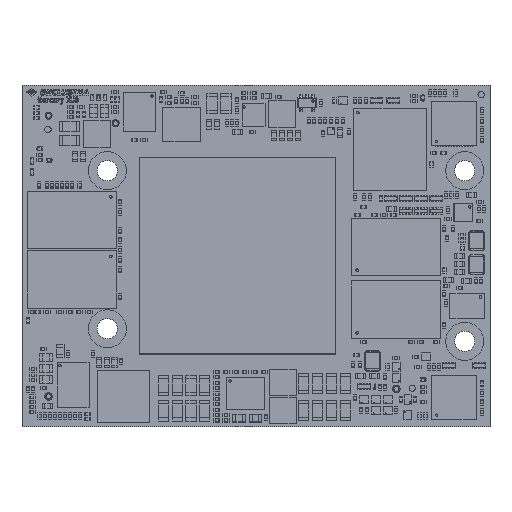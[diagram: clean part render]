
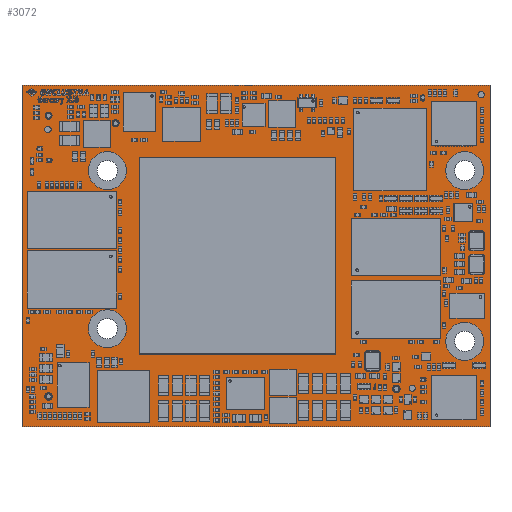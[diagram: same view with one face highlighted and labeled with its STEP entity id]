
A CAD part, top view. The second image highlights one B-rep face of the part: STEP entity #3072.
In plain terms, the highlighted planar face has unit normal (0, 0, 1).
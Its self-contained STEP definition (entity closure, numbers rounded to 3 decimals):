
#2583 = VERTEX_POINT('',#2584);
#2584 = CARTESIAN_POINT('',(0.,0.,0.));
#2590 = EDGE_CURVE('',#2583,#2591,#2593,.T.);
#2591 = VERTEX_POINT('',#2592);
#2592 = CARTESIAN_POINT('',(74.,0.,0.));
#2593 = LINE('',#2594,#2595);
#2594 = CARTESIAN_POINT('',(0.,0.,0.));
#2595 = VECTOR('',#2596,1.);
#2596 = DIRECTION('',(1.,0.,0.));
#2621 = EDGE_CURVE('',#2591,#2622,#2624,.T.);
#2622 = VERTEX_POINT('',#2623);
#2623 = CARTESIAN_POINT('',(74.,54.,0.));
#2624 = LINE('',#2625,#2626);
#2625 = CARTESIAN_POINT('',(74.,0.,0.));
#2626 = VECTOR('',#2627,1.);
#2627 = DIRECTION('',(0.,1.,0.));
#2652 = EDGE_CURVE('',#2622,#2653,#2655,.T.);
#2653 = VERTEX_POINT('',#2654);
#2654 = CARTESIAN_POINT('',(0.,54.,0.));
#2655 = LINE('',#2656,#2657);
#2656 = CARTESIAN_POINT('',(74.,54.,0.));
#2657 = VECTOR('',#2658,1.);
#2658 = DIRECTION('',(-1.,0.,0.));
#2683 = EDGE_CURVE('',#2653,#2583,#2684,.T.);
#2684 = LINE('',#2685,#2686);
#2685 = CARTESIAN_POINT('',(0.,54.,0.));
#2686 = VECTOR('',#2687,1.);
#2687 = DIRECTION('',(0.,-1.,0.));
#2707 = VERTEX_POINT('',#2708);
#2708 = CARTESIAN_POINT('',(4.8,4.8,0.));
#2714 = EDGE_CURVE('',#2707,#2707,#2715,.T.);
#2715 = CIRCLE('',#2716,0.6);
#2716 = AXIS2_PLACEMENT_3D('',#2717,#2718,#2719);
#2717 = CARTESIAN_POINT('',(4.2,4.8,0.));
#2718 = DIRECTION('',(0.,0.,1.));
#2719 = DIRECTION('',(1.,0.,0.));
#2740 = VERTEX_POINT('',#2741);
#2741 = CARTESIAN_POINT('',(15.35,6.,0.));
#2747 = EDGE_CURVE('',#2740,#2740,#2748,.T.);
#2748 = CIRCLE('',#2749,0.55);
#2749 = AXIS2_PLACEMENT_3D('',#2750,#2751,#2752);
#2750 = CARTESIAN_POINT('',(14.8,6.,0.));
#2751 = DIRECTION('',(0.,0.,1.));
#2752 = DIRECTION('',(1.,0.,0.));
#2773 = VERTEX_POINT('',#2774);
#2774 = CARTESIAN_POINT('',(4.75,49.2,0.));
#2780 = EDGE_CURVE('',#2773,#2773,#2781,.T.);
#2781 = CIRCLE('',#2782,0.55);
#2782 = AXIS2_PLACEMENT_3D('',#2783,#2784,#2785);
#2783 = CARTESIAN_POINT('',(4.2,49.2,0.));
#2784 = DIRECTION('',(0.,0.,1.));
#2785 = DIRECTION('',(1.,0.,0.));
#2806 = VERTEX_POINT('',#2807);
#2807 = CARTESIAN_POINT('',(15.1,15.5,0.));
#2813 = EDGE_CURVE('',#2806,#2806,#2814,.T.);
#2814 = CIRCLE('',#2815,1.6);
#2815 = AXIS2_PLACEMENT_3D('',#2816,#2817,#2818);
#2816 = CARTESIAN_POINT('',(13.5,15.5,0.));
#2817 = DIRECTION('',(0.,0.,1.));
#2818 = DIRECTION('',(1.,0.,0.));
#2839 = VERTEX_POINT('',#2840);
#2840 = CARTESIAN_POINT('',(15.1,40.5,0.));
#2846 = EDGE_CURVE('',#2839,#2839,#2847,.T.);
#2847 = CIRCLE('',#2848,1.6);
#2848 = AXIS2_PLACEMENT_3D('',#2849,#2850,#2851);
#2849 = CARTESIAN_POINT('',(13.5,40.5,0.));
#2850 = DIRECTION('',(0.,0.,1.));
#2851 = DIRECTION('',(1.,0.,0.));
#2872 = VERTEX_POINT('',#2873);
#2873 = CARTESIAN_POINT('',(59.8,6.,0.));
#2879 = EDGE_CURVE('',#2872,#2872,#2880,.T.);
#2880 = CIRCLE('',#2881,0.6);
#2881 = AXIS2_PLACEMENT_3D('',#2882,#2883,#2884);
#2882 = CARTESIAN_POINT('',(59.2,6.,0.));
#2883 = DIRECTION('',(0.,0.,1.));
#2884 = DIRECTION('',(1.,0.,0.));
#2905 = VERTEX_POINT('',#2906);
#2906 = CARTESIAN_POINT('',(71.6,13.5,0.));
#2912 = EDGE_CURVE('',#2905,#2905,#2913,.T.);
#2913 = CIRCLE('',#2914,1.6);
#2914 = AXIS2_PLACEMENT_3D('',#2915,#2916,#2917);
#2915 = CARTESIAN_POINT('',(70.,13.5,0.));
#2916 = DIRECTION('',(0.,0.,1.));
#2917 = DIRECTION('',(1.,0.,0.));
#2938 = VERTEX_POINT('',#2939);
#2939 = CARTESIAN_POINT('',(15.35,48.,0.));
#2945 = EDGE_CURVE('',#2938,#2938,#2946,.T.);
#2946 = CIRCLE('',#2947,0.55);
#2947 = AXIS2_PLACEMENT_3D('',#2948,#2949,#2950);
#2948 = CARTESIAN_POINT('',(14.8,48.,0.));
#2949 = DIRECTION('',(0.,0.,1.));
#2950 = DIRECTION('',(1.,0.,0.));
#2971 = VERTEX_POINT('',#2972);
#2972 = CARTESIAN_POINT('',(71.6,40.5,0.));
#2978 = EDGE_CURVE('',#2971,#2971,#2979,.T.);
#2979 = CIRCLE('',#2980,1.6);
#2980 = AXIS2_PLACEMENT_3D('',#2981,#2982,#2983);
#2981 = CARTESIAN_POINT('',(70.,40.5,0.));
#2982 = DIRECTION('',(0.,0.,1.));
#2983 = DIRECTION('',(1.,0.,0.));
#3004 = VERTEX_POINT('',#3005);
#3005 = CARTESIAN_POINT('',(59.8,48.,0.));
#3011 = EDGE_CURVE('',#3004,#3004,#3012,.T.);
#3012 = CIRCLE('',#3013,0.6);
#3013 = AXIS2_PLACEMENT_3D('',#3014,#3015,#3016);
#3014 = CARTESIAN_POINT('',(59.2,48.,0.));
#3015 = DIRECTION('',(0.,0.,1.));
#3016 = DIRECTION('',(1.,0.,0.));
#3072 = ADVANCED_FACE('',(#3073,#3079,#3082,#3085,#3088,#3091,#3094,
    #3097,#3100,#3103,#3106),#3109,.F.);
#3073 = FACE_BOUND('',#3074,.T.);
#3074 = EDGE_LOOP('',(#3075,#3076,#3077,#3078));
#3075 = ORIENTED_EDGE('',*,*,#2590,.T.);
#3076 = ORIENTED_EDGE('',*,*,#2621,.T.);
#3077 = ORIENTED_EDGE('',*,*,#2652,.T.);
#3078 = ORIENTED_EDGE('',*,*,#2683,.T.);
#3079 = FACE_BOUND('',#3080,.F.);
#3080 = EDGE_LOOP('',(#3081));
#3081 = ORIENTED_EDGE('',*,*,#2714,.T.);
#3082 = FACE_BOUND('',#3083,.F.);
#3083 = EDGE_LOOP('',(#3084));
#3084 = ORIENTED_EDGE('',*,*,#2747,.T.);
#3085 = FACE_BOUND('',#3086,.F.);
#3086 = EDGE_LOOP('',(#3087));
#3087 = ORIENTED_EDGE('',*,*,#2780,.T.);
#3088 = FACE_BOUND('',#3089,.F.);
#3089 = EDGE_LOOP('',(#3090));
#3090 = ORIENTED_EDGE('',*,*,#2813,.T.);
#3091 = FACE_BOUND('',#3092,.F.);
#3092 = EDGE_LOOP('',(#3093));
#3093 = ORIENTED_EDGE('',*,*,#2846,.T.);
#3094 = FACE_BOUND('',#3095,.F.);
#3095 = EDGE_LOOP('',(#3096));
#3096 = ORIENTED_EDGE('',*,*,#2879,.T.);
#3097 = FACE_BOUND('',#3098,.F.);
#3098 = EDGE_LOOP('',(#3099));
#3099 = ORIENTED_EDGE('',*,*,#2912,.T.);
#3100 = FACE_BOUND('',#3101,.F.);
#3101 = EDGE_LOOP('',(#3102));
#3102 = ORIENTED_EDGE('',*,*,#2945,.T.);
#3103 = FACE_BOUND('',#3104,.F.);
#3104 = EDGE_LOOP('',(#3105));
#3105 = ORIENTED_EDGE('',*,*,#2978,.T.);
#3106 = FACE_BOUND('',#3107,.F.);
#3107 = EDGE_LOOP('',(#3108));
#3108 = ORIENTED_EDGE('',*,*,#3011,.T.);
#3109 = PLANE('',#3110);
#3110 = AXIS2_PLACEMENT_3D('',#3111,#3112,#3113);
#3111 = CARTESIAN_POINT('',(0.,0.,0.));
#3112 = DIRECTION('',(0.,0.,-1.));
#3113 = DIRECTION('',(-1.,0.,0.));
